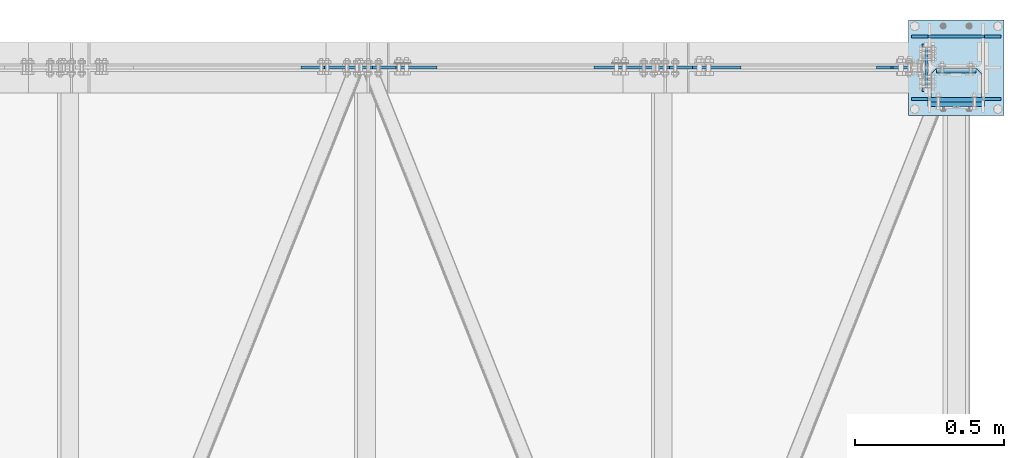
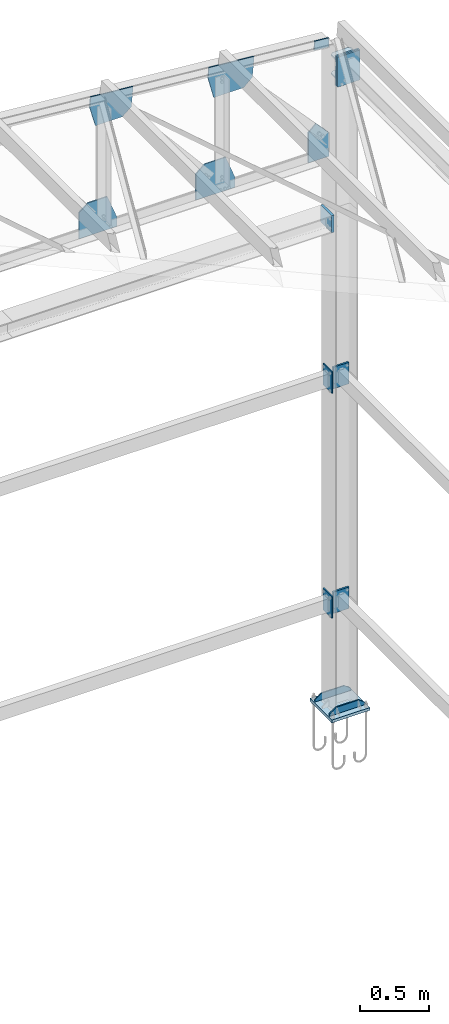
# One storey, part 10 of 251: 18 plates.
"""IFC4 building model written with IfcOpenShell, lengths in metres."""

import ifcopenshell
import ifcopenshell.guid

model = None  # the IFC model being written
_history = None  # IfcOwnerHistory: only IFC2X3 demands one
_inside = {}  # id of a spatial element -> (the spatial element, [elements in it])
_under = {}  # id of a project, library or spatial element -> (it, [spatial elements below it])
_declared = {}  # id of a project -> (the project, [libraries it declares])
_typed = {}  # id of a type object -> (the type object, [elements of that type])
_made_of = {}  # id of a material, layer set ... -> (it, [elements and type objects made of it])


def new_model(schema):
    """Start an empty IFC model of exactly this schema.

    Asked for "IFC4X3", IfcOpenShell would pick the latest addendum, in which some entities
    have other attributes; the version numbers below select the first issue.
    IFC2X3 requires an IfcOwnerHistory on every rooted entity: one is made here for all.
    """
    global model, _history
    if schema == "IFC4X3":
        model = ifcopenshell.file(schema_version=(4, 3, 0, 0))
    else:
        model = ifcopenshell.file(schema=schema)
    _inside.clear()
    _under.clear()
    _declared.clear()
    _typed.clear()
    _made_of.clear()
    _history = None
    if model.schema == "IFC2X3":
        org = make("IfcOrganization", Name="unknown")
        user = make(
            "IfcPersonAndOrganization",
            ThePerson=make("IfcPerson", FamilyName="unknown"),
            TheOrganization=org,
        )
        app = make(
            "IfcApplication",
            ApplicationDeveloper=org,
            Version="unknown",
            ApplicationFullName="unknown",
            ApplicationIdentifier="unknown",
        )
        _history = make(
            "IfcOwnerHistory",
            OwningUser=user,
            OwningApplication=app,
            ChangeAction="ADDED",
            CreationDate=0,
        )
    return model


def make(cls, **values):
    """One entity of the class cls with the attributes given. An attribute that is None is left unset."""
    return model.create_entity(
        cls, **{name: value for name, value in values.items() if value is not None}
    )


def rooted(cls, **values):
    """An entity with a GlobalId (a new one), such as an element, a storey or a relation."""
    return make(cls, GlobalId=ifcopenshell.guid.new(), OwnerHistory=_history, **values)


def si_unit(unit_type, name, prefix=None):
    """IfcSIUnit, for example si_unit("LENGTHUNIT", "METRE", prefix="MILLI")."""
    return make("IfcSIUnit", UnitType=unit_type, Prefix=prefix, Name=name)


def assignment(units):
    """IfcUnitAssignment: the units of a project."""
    return None if units is None else make("IfcUnitAssignment", Units=units)


def point(xyz):
    """IfcCartesianPoint."""
    return None if xyz is None else make("IfcCartesianPoint", Coordinates=xyz)


def direction(xyz):
    """IfcDirection."""
    return None if xyz is None else make("IfcDirection", DirectionRatios=xyz)


def frame(location, z_axis=None, x_axis=None):
    """IfcAxis2Placement3D, a coordinate frame: its origin and axes. An axis left out is left unset."""
    return make(
        "IfcAxis2Placement3D",
        Location=point(location),
        Axis=direction(z_axis),
        RefDirection=direction(x_axis),
    )


def origin_with_axes():
    """The frame at (0, 0, 0) with the z axis (0, 0, 1) and the x axis (1, 0, 0) written out."""
    return frame((0.0, 0.0, 0.0), z_axis=(0.0, 0.0, 1.0), x_axis=(1.0, 0.0, 0.0))


def place(relative_to, where):
    """IfcLocalPlacement: puts the frame where relative to a parent placement (None: the world)."""
    return make(
        "IfcLocalPlacement", PlacementRelTo=relative_to, RelativePlacement=where
    )


def context(
    kind, dimensions, precision=None, world=None, true_north=None, identifier=None
):
    """IfcGeometricRepresentationContext, for example the 3D "Model" context."""
    return make(
        "IfcGeometricRepresentationContext",
        ContextIdentifier=identifier,
        ContextType=kind,
        CoordinateSpaceDimension=dimensions,
        Precision=precision,
        WorldCoordinateSystem=world,
        TrueNorth=true_north,
    )


def project(units=None, contexts=None):
    """IfcProject with its units and contexts."""
    return rooted(
        "IfcProject",
        Name="project",
        RepresentationContexts=contexts,
        UnitsInContext=assignment(units),
    )


def spatial(cls, under=None, at=None, **own):
    """A site, building, storey or space (cls), placed at a placement, below another one or the project."""
    s = rooted(cls, ObjectPlacement=at, **own)
    if under is not None:
        _under.setdefault(under.id(), (under, []))[1].append(s)
    return s


def polyline(points):
    """IfcPolyline through the points."""
    return make("IfcPolyline", Points=[point(p) for p in points])


def outline(outer, holes=None, kind="AREA"):
    """IfcArbitraryClosedProfileDef: a profile drawn as a closed curve; with holes, ...WithVoids."""
    if holes is None:
        return make("IfcArbitraryClosedProfileDef", ProfileType=kind, OuterCurve=outer)
    return make(
        "IfcArbitraryProfileDefWithVoids",
        ProfileType=kind,
        OuterCurve=outer,
        InnerCurves=holes,
    )


def extrude(swept, where, along, depth):
    """IfcExtrudedAreaSolid: the profile swept, set in the frame where, extruded along a direction by depth."""
    return make(
        "IfcExtrudedAreaSolid",
        SweptArea=swept,
        Position=where,
        ExtrudedDirection=direction(along),
        Depth=depth,
    )


def shape(context_of_items, identifier, shape_type, items):
    """IfcShapeRepresentation: the items that make up one representation, for example the "Body"."""
    return make(
        "IfcShapeRepresentation",
        ContextOfItems=context_of_items,
        RepresentationIdentifier=identifier,
        RepresentationType=shape_type,
        Items=items,
    )


def made_of(thing, what):
    """Note that an element or type object is made of a material, layer set ...; save() writes the relation."""
    if what is not None:
        _made_of.setdefault(what.id(), (what, []))[1].append(thing)
    return thing


def type_object(cls, material=None, **own):
    """A type object (cls), such as IfcWallType, which elements share."""
    return made_of(rooted(cls, **own), material)


def element(
    cls,
    number,
    at=None,
    inside=None,
    cuts=None,
    type_object=None,
    material=None,
    context=None,
    identifier="Body",
    shape_type=None,
    held_by="IfcProductDefinitionShape",
    body=None,
    shapes=None,
    **own,
):
    """One element of the class cls, such as IfcWall. Its Tag is "e" and its number.

    at: its placement. inside: the storey or other place that contains it. cuts: it is an
    opening in that element (IfcRelVoidsElement). A single representation is given by context,
    identifier, shape_type and body (its items); several are given by shapes. held_by: the class
    of the entity that holds the representations. save() writes the other relations.
    """
    e = rooted(cls, Tag="e%d" % number, ObjectPlacement=at, **own)
    if body is not None:
        shapes = [shape(context, identifier, shape_type, body)]
    if shapes is not None:
        e.Representation = make(held_by, Representations=shapes)
    if inside is not None:
        _inside.setdefault(inside.id(), (inside, []))[1].append(e)
    if cuts is not None:
        rooted(
            "IfcRelVoidsElement", RelatingBuildingElement=cuts, RelatedOpeningElement=e
        )
    if type_object is not None:
        _typed.setdefault(type_object.id(), (type_object, []))[1].append(e)
    return made_of(e, material)


def aggregate(whole, parts):
    """IfcRelAggregates: a whole, such as a stair, and the parts it consists of."""
    return rooted("IfcRelAggregates", RelatingObject=whole, RelatedObjects=parts)


def save(model, path):
    """Write the relations noted so far, then the file.

    IfcRelAggregates (storeys below a building ...), IfcRelContainedInSpatialStructure (elements
    in a storey), IfcRelDefinesByType, IfcRelAssociatesMaterial and IfcRelDeclares: one each for
    every whole, place, type object, material and project.
    """
    for whole, parts in _under.values():
        aggregate(whole, parts)
    for where, things in _inside.values():
        rooted(
            "IfcRelContainedInSpatialStructure",
            RelatedElements=things,
            RelatingStructure=where,
        )
    for kind, things in _typed.values():
        rooted("IfcRelDefinesByType", RelatedObjects=things, RelatingType=kind)
    for what, things in _made_of.values():
        rooted("IfcRelAssociatesMaterial", RelatedObjects=things, RelatingMaterial=what)
    for by, libraries in _declared.values():
        rooted("IfcRelDeclares", RelatingContext=by, RelatedDefinitions=libraries)
    model.write(path)


model = new_model("IFC4")

# Units and contexts
model_context = context("Model", 3, precision=1e-05, world=origin_with_axes())
ifc_project = project(units=[si_unit("LENGTHUNIT", "METRE"), si_unit("AREAUNIT", "SQUARE_METRE"), si_unit("VOLUMEUNIT", "CUBIC_METRE"), si_unit("MASSUNIT", "GRAM", prefix="KILO"), si_unit("TIMEUNIT", "SECOND"), si_unit("PLANEANGLEUNIT", "RADIAN"), si_unit("SOLIDANGLEUNIT", "STERADIAN"), si_unit("THERMODYNAMICTEMPERATUREUNIT", "DEGREE_CELSIUS")], contexts=[model_context])

# Site, building, storey
placement_1 = place(None, origin_with_axes())
site = spatial("IfcSite", under=ifc_project, at=placement_1, Name="Italia", CompositionType="ELEMENT")
building = spatial("IfcBuilding", under=site, at=placement_1, Name="Deposito", CompositionType="ELEMENT")
storey = spatial("IfcBuildingStorey", under=building, at=placement_1, Name="Storey 0", CompositionType="ELEMENT", Elevation=0.0)

# Plates
plate_type_1 = type_object("IfcPlateType", Name="Collegamenti -001_-002 -002_-001 -002_-003 -003_-002 -003_-004 -004_-003 -004_-008 -008_-004 -009_-010 -010_-009 -010_-011 -011_-010 -011_-012 -012_-011 -012_-016 -016_-012", PredefinedType="SHEET")
placement_2 = place(placement_1, origin_with_axes())
plate_1_placement = place(placement_2, origin_with_axes())
element("IfcPlate", 1, at=plate_1_placement, inside=storey, type_object=plate_type_1, Name="Collegamenti -001_-002 -002_-001 -002_-003 -003_-002 -003_-004 -004_-003 -004_-008 -008_-004 -009_-010 -010_-009 -010_-011 -011_-010 -011_-012 -012_-011 -012_-016 -016_-012", context=model_context, shape_type="SweptSolid", body=[
    extrude(outline(polyline([(0.0, 0.0), (-0.132, 0.0), (-0.132, 0.192), (0.0, 0.192), (0.0, 0.0)])), frame((19.934, 19.982, 0.904), z_axis=(0.0, 1.0, 0.0), x_axis=(-1.0, 0.0, 0.0)), (0.0, 0.0, 1.0), 0.0149994),
])
plate_type_2 = type_object("IfcPlateType", Name="Collegamenti -001_-002 -002_-001 -002_-003 -003_-002 -003_-004 -004_-003 -004_-008 -008_-004 -009_-010 -010_-009 -010_-011 -011_-010 -011_-012 -012_-011 -012_-016 -016_-012", PredefinedType="SHEET")
plate_2_placement = place(placement_2, origin_with_axes())
element("IfcPlate", 2, at=plate_2_placement, inside=storey, type_object=plate_type_2, Name="Collegamenti -001_-002 -002_-001 -002_-003 -003_-002 -003_-004 -004_-003 -004_-008 -008_-004 -009_-010 -010_-009 -010_-011 -011_-010 -011_-012 -012_-011 -012_-016 -016_-012", context=model_context, shape_type="SweptSolid", body=[
    extrude(outline(polyline([(0.0, 0.0), (-0.132, 0.0), (-0.132, 0.192), (0.0, 0.192), (0.0, 0.0)])), frame((19.934, 19.982, 2.904), z_axis=(0.0, 1.0, 0.0), x_axis=(-1.0, 0.0, 0.0)), (0.0, 0.0, 1.0), 0.0149994),
])
plate_type_3 = type_object("IfcPlateType", Name="Collegamenti -005_-006 -008_-007 -013_-014 -016_-015", PredefinedType="SHEET")
plate_3_placement = place(placement_2, origin_with_axes())
element("IfcPlate", 3, at=plate_3_placement, inside=storey, type_object=plate_type_3, Name="Collegamenti -005_-006 -008_-007 -013_-014 -016_-015", context=model_context, shape_type="SweptSolid", body=[
    extrude(outline(polyline([(0.0, 0.0), (-0.132, 0.0), (-0.132, 0.192), (0.0, 0.192), (0.0, 0.0)])), frame((19.895, 20.066, 0.904), z_axis=(1.0, 0.0, 0.0), x_axis=(0.0, 1.0, 0.0)), (0.0, 0.0, 1.0), 0.0100002),
])
plate_type_4 = type_object("IfcPlateType", Name="Collegamenti -005_-006 -008_-007 -013_-014 -016_-015", PredefinedType="SHEET")
plate_4_placement = place(placement_2, origin_with_axes())
element("IfcPlate", 4, at=plate_4_placement, inside=storey, type_object=plate_type_4, Name="Collegamenti -005_-006 -008_-007 -013_-014 -016_-015", context=model_context, shape_type="SweptSolid", body=[
    extrude(outline(polyline([(0.0, 0.0), (-0.132, 0.0), (-0.132, 0.192), (0.0, 0.192), (0.0, 0.0)])), frame((19.895, 20.066, 2.904), z_axis=(1.0, 0.0, 0.0), x_axis=(0.0, 1.0, 0.0)), (0.0, 0.0, 1.0), 0.0100002),
])
plate_type_5 = type_object("IfcPlateType", Name="Collegamenti -051_7075 -053_7076", PredefinedType="SHEET")
plate_5_placement = place(placement_2, origin_with_axes())
element("IfcPlate", 5, at=plate_5_placement, inside=storey, type_object=plate_type_5, Name="Collegamenti -051_7075 -053_7076", context=model_context, shape_type="SweptSolid", body=[
    extrude(outline(polyline([(0.0, 0.0), (-0.16, 0.0), (-0.16, 0.152), (0.0, 0.152), (0.0, 0.0)])), frame((19.885, 20.08, 4.348), z_axis=(1.0, 0.0, 0.0), x_axis=(0.0, 1.0, 0.0)), (0.0, 0.0, 1.0), 0.0200005),
])
plate_type_6 = type_object("IfcPlateType", Name="Collegamenti -064_-065 -065_-064 -065_-066 -066_-065 -066_-067 -067_-066 -067_-068 -068_-067", PredefinedType="SHEET")
plate_6_placement = place(placement_2, origin_with_axes())
element("IfcPlate", 6, at=plate_6_placement, inside=storey, type_object=plate_type_6, Name="Collegamenti -064_-065 -065_-064 -065_-066 -066_-065 -066_-067 -067_-066 -067_-068 -068_-067", context=model_context, shape_type="SweptSolid", body=[
    extrude(outline(polyline([(0.0, 0.0), (-0.189999, 0.0), (-0.189999, 0.266001), (0.0, 0.266001), (0.0, 0.0)])), frame((19.905, 19.885, 5.667), z_axis=(0.0, 1.0, 0.0), x_axis=(-1.0, 0.0, 0.0)), (0.0, 0.0, 1.0), 0.0149994),
])
plate_type_7 = type_object("IfcPlateType", Name="Collegamenti -064_-065 -065_-064 -065_-066 -066_-065 -066_-067 -067_-066 -067_-068 -068_-067", PredefinedType="SHEET")
plate_7_placement = place(placement_2, origin_with_axes())
element("IfcPlate", 7, at=plate_7_placement, inside=storey, type_object=plate_type_7, Name="Collegamenti -064_-065 -065_-064 -065_-066 -066_-065 -066_-067 -067_-066 -067_-068 -068_-067", context=model_context, shape_type="SweptSolid", body=[
    extrude(outline(polyline([(0.0, 0.0), (-0.188999, 0.0), (-0.188999, 0.266001), (0.0, 0.266001), (0.0, 0.0)])), frame((19.9055, 19.87, 5.667), z_axis=(0.0, 1.0, 0.0), x_axis=(-1.0, 0.0, 0.0)), (0.0, 0.0, 1.0), 0.0149994),
])
plate_type_8 = type_object("IfcPlateType", Name="Collegamenti -064_-065 -065_-064 -065_-066 -066_-065 -066_-067 -067_-066 -067_-068 -068_-067", PredefinedType="SHEET")
plate_8_placement = place(placement_2, origin_with_axes())
element("IfcPlate", 8, at=plate_8_placement, inside=storey, type_object=plate_type_8, Name="Collegamenti -064_-065 -065_-064 -065_-066 -066_-065 -066_-067 -067_-066 -067_-068 -068_-067", context=model_context, shape_type="SweptSolid", body=[
    extrude(outline(polyline([(0.0, 0.0), (0.0790005, 0.0), (0.0970001, -0.0179996), (0.0970001, -0.151999), (0.0790005, -0.169998), (0.0, -0.169998), (0.0, 0.0)])), frame((19.915, 19.9, 5.875), z_axis=(0.0, 0.0, 1.0), x_axis=(0.0, 1.0, 0.0)), (0.0, 0.0, 1.0), 0.0150003),
])
plate_type_9 = type_object("IfcPlateType", Name="Collegamenti -064_-065 -065_-064 -065_-066 -066_-065 -066_-067 -067_-066 -067_-068 -068_-067", PredefinedType="SHEET")
plate_9_placement = place(placement_2, origin_with_axes())
element("IfcPlate", 9, at=plate_9_placement, inside=storey, type_object=plate_type_9, Name="Collegamenti -064_-065 -065_-064 -065_-066 -066_-065 -066_-067 -067_-066 -067_-068 -068_-067", context=model_context, shape_type="SweptSolid", body=[
    extrude(outline(polyline([(0.0, 0.0), (0.0790005, 0.0), (0.0970001, -0.0179996), (0.0970001, -0.151999), (0.0790005, -0.169998), (0.0, -0.169998), (0.0, 0.0)])), frame((19.915, 19.9, 5.71), z_axis=(0.0, 0.0, 1.0), x_axis=(0.0, 1.0, 0.0)), (0.0, 0.0, 1.0), 0.0150003),
])
plate_type_10 = type_object("IfcPlateType", Name="Collegamenti 0014_-001 0016_-054 0018_-056 0032_-002 0033_-058 0047_-003 0048_-060 0062_-004 0063_-005 0079_-008", PredefinedType="SHEET")
plate_10_placement = place(placement_2, origin_with_axes())
element("IfcPlate", 10, at=plate_10_placement, inside=storey, type_object=plate_type_10, Name="Collegamenti 0014_-001 0016_-054 0018_-056 0032_-002 0033_-058 0047_-003 0048_-060 0062_-004 0063_-005 0079_-008", context=model_context, shape_type="SweptSolid", body=[
    extrude(outline(polyline([(0.0, 0.0), (0.32, 0.0), (0.32, -0.32), (0.0, -0.32), (0.0, 0.0)])), frame((20.16, 19.84, 0.075), z_axis=(0.0, 0.0, -1.0), x_axis=(0.0, 1.0, 0.0)), (0.0, 0.0, 1.0), 0.025),
])
plate_type_11 = type_object("IfcPlateType", Name="Collegamenti 0014_-001 0016_-054 0018_-056 0032_-002 0033_-058 0047_-003 0048_-060 0062_-004 0063_-005 0079_-008", PredefinedType="SHEET")
plate_11_placement = place(placement_2, origin_with_axes())
element("IfcPlate", 11, at=plate_11_placement, inside=storey, type_object=plate_type_11, Name="Collegamenti 0014_-001 0016_-054 0018_-056 0032_-002 0033_-058 0047_-003 0048_-060 0062_-004 0063_-005 0079_-008", context=model_context, shape_type="SweptSolid", body=[
    extrude(outline(polyline([(0.0, 0.0), (0.0550003, 0.04), (0.244999, 0.04), (0.299999, 0.0), (0.299999, -0.02), (0.0, -0.02), (0.0, 0.0)])), frame((20.15, 20.1, 0.095), z_axis=(0.0, 1.0, 0.0), x_axis=(-1.0, 0.0, 0.0)), (0.0, 0.0, 1.0), 0.0100002),
])
plate_type_12 = type_object("IfcPlateType", Name="Collegamenti 0014_-001 0016_-054 0018_-056 0032_-002 0033_-058 0047_-003 0048_-060 0062_-004 0063_-005 0079_-008", PredefinedType="SHEET")
plate_12_placement = place(placement_2, origin_with_axes())
element("IfcPlate", 12, at=plate_12_placement, inside=storey, type_object=plate_type_12, Name="Collegamenti 0014_-001 0016_-054 0018_-056 0032_-002 0033_-058 0047_-003 0048_-060 0062_-004 0063_-005 0079_-008", context=model_context, shape_type="SweptSolid", body=[
    extrude(outline(polyline([(0.0, 0.0), (0.0550003, 0.04), (0.244999, 0.04), (0.299999, 0.0), (0.299999, -0.02), (0.0, -0.02), (0.0, 0.0)])), frame((20.15, 19.89, 0.095), z_axis=(0.0, 1.0, 0.0), x_axis=(-1.0, 0.0, 0.0)), (0.0, 0.0, 1.0), 0.0100002),
])
plate_type_13 = type_object("IfcPlateType", Name="Reticolare 6", PredefinedType="SHEET")
plate_13_placement = place(placement_2, origin_with_axes())
element("IfcPlate", 13, at=plate_13_placement, inside=storey, type_object=plate_type_13, Name="Reticolare 6", context=model_context, shape_type="SweptSolid", body=[
    extrude(outline(polyline([(0.0, 0.0), (0.0663548, 0.0608029), (0.173689, -0.0563316), (0.173689, -0.267609), (0.0, -0.267609), (0.0, 0.0)])), frame((19.7313, 20.005, 5.24509), z_axis=(0.0, -1.0, 0.0), x_axis=(1.0, 0.0, 0.0)), (0.0, 0.0, 1.0), 0.00999832),
])
plate_type_14 = type_object("IfcPlateType", Name="Reticolare 6", PredefinedType="SHEET")
plate_14_placement = place(placement_2, origin_with_axes())
element("IfcPlate", 14, at=plate_14_placement, inside=storey, type_object=plate_type_14, Name="Reticolare 6", context=model_context, shape_type="SweptSolid", body=[
    extrude(outline(polyline([(0.0, 0.0), (-0.317959, 0.0), (-0.317959, 0.232118), (-0.239479, 0.294094), (-0.0784836, 0.294094), (0.0, 0.0899997), (0.0, 0.0)])), frame((18.1186, 20.005, 4.97748), z_axis=(0.0, -1.0, 0.0), x_axis=(1.0, 0.0, 0.0)), (0.0, 0.0, 1.0), 0.00999832),
])
plate_type_15 = type_object("IfcPlateType", Name="Reticolare 6", PredefinedType="SHEET")
plate_15_placement = place(placement_2, origin_with_axes())
element("IfcPlate", 15, at=plate_15_placement, inside=storey, type_object=plate_type_15, Name="Reticolare 6", context=model_context, shape_type="SweptSolid", body=[
    extrude(outline(polyline([(0.0, 0.0), (-0.330614, 0.0), (-0.330614, 0.231134), (-0.254358, 0.295825), (-0.0784836, 0.295825), (0.0, 0.0899997), (0.0, 0.0)])), frame((19.1148, 20.005, 4.97748), z_axis=(0.0, -1.0, 0.0), x_axis=(1.0, 0.0, 0.0)), (0.0, 0.0, 1.0), 0.00999832),
])
plate_type_16 = type_object("IfcPlateType", Name="Reticolare 6", PredefinedType="SHEET")
plate_16_placement = place(placement_2, origin_with_axes())
element("IfcPlate", 16, at=plate_16_placement, inside=storey, type_object=plate_type_16, Name="Reticolare 6", context=model_context, shape_type="SweptSolid", body=[
    extrude(outline(polyline([(0.0, 0.0), (0.00697327, 0.0796957), (0.12484, 0.0693836), (0.12484, -0.010922), (0.11484, -0.010922), (0.0, 0.0)])), frame((19.7802, 20.005, 5.96153), z_axis=(0.0, -1.0, 0.0), x_axis=(1.0, 0.0, 0.0)), (0.0, 0.0, 1.0), 0.00999832),
])
plate_type_17 = type_object("IfcPlateType", Name="Reticolare 6", PredefinedType="SHEET")
plate_17_placement = place(placement_2, origin_with_axes())
element("IfcPlate", 17, at=plate_17_placement, inside=storey, type_object=plate_type_17, Name="Reticolare 6", context=model_context, shape_type="SweptSolid", body=[
    extrude(outline(polyline([(0.0, 0.0), (-0.0737286, -0.0675588), (-0.324436, -0.0675588), (-0.373413, 0.122975), (-0.365566, 0.212633), (0.015686, 0.179277), (0.0, 0.0)])), frame((19.2608, 20.005, 5.90663), z_axis=(0.0, -1.0, 0.0), x_axis=(1.0, 0.0, 0.0)), (0.0, 0.0, 1.0), 0.00999832),
])
plate_type_18 = type_object("IfcPlateType", Name="Reticolare 6", PredefinedType="SHEET")
plate_18_placement = place(placement_2, origin_with_axes())
element("IfcPlate", 18, at=plate_18_placement, inside=storey, type_object=plate_type_18, Name="Reticolare 6", context=model_context, shape_type="SweptSolid", body=[
    extrude(outline(polyline([(0.0, 0.0), (-0.0762558, -0.0646911), (-0.302103, -0.0646911), (-0.351078, 0.1147), (-0.343235, 0.204358), (0.0151367, 0.173005), (0.0, 0.0)])), frame((18.2422, 20.005, 6.00206), z_axis=(0.0, -1.0, 0.0), x_axis=(1.0, 0.0, 0.0)), (0.0, 0.0, 1.0), 0.00999832),
])

save(model, "model.ifc")
